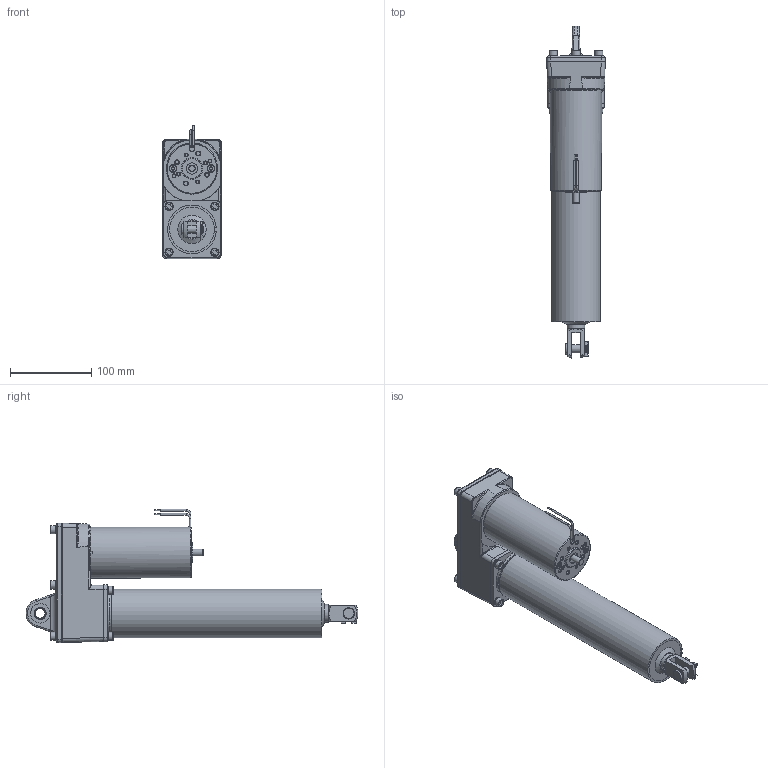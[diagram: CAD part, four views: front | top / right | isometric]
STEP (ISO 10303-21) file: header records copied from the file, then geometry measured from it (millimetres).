
FILE_DESCRIPTION(/* description */ (''),/* implementation_level */ '2;1');
FILE_NAME(/* name */ 'T6C2-DC-0200-Dunker 63x55-162-131-9',/* time_stamp */ '2017-10-12T10:48:16+02:00',/* author */ ('Christoph Hahmann'),/* organization */ ('RACO'),/* preprocessor_version */ 'ST-DEVELOPER v16.7',/* originating_system */ 'DEX',/* authorisation */ $);
FILE_SCHEMA (('AUTOMOTIVE_DESIGN {1 0 10303 214 3 1 1}'));
Length unit declared in the file: millimetre
Products named in the file (6): T6C2-DC-0200-Dunker 63x55-162-131-9; 12.00-C2_4_Auge_1; Dunker-63x55; 02.14-C2-0200; 01.15-C2-0200; 01.01-02_kpl_Gabelkopf_1
Assembly tree (5 placements, depth 2):
  T6C2-DC-0200-Dunker 63x55-162-131-9
    12.00-C2_4_Auge_1
    Dunker-63x55
    02.14-C2-0200
    01.15-C2-0200
    01.01-02_kpl_Gabelkopf_1
Bounding box: 72 x 409.11 x 164.05 mm (x, y, z)
Volume: 1685455.5 mm3; surface area: 188303.5 mm2
Topology: 6 solids, 7 shells, 631 faces, 1582 edges, 1034 vertices
Faces by surface type: plane 305, cylinder 225, cone 39, bspline 36, torus 24, sphere 2
Full cylindrical faces by diameter (mm): 1 x4, 1.5 x2, 2.1 x3, 2.2 x3, 3.7 x18, 4.66 x8, 8 x3, 8.5 x2, 9.5 x2, 10 x13, 10.05 x8, 11.4 x1, 12 x1, 14 x3, 18 x1, 21.999 x1, 22 x1, 24 x2, 25 x2, 27 x1, 34.999 x1, 55 x1, 63 x1
Entity records: 18809 total; most frequent: CARTESIAN_POINT 3922, DIRECTION 3039, ORIENTED_EDGE 2684, EDGE_CURVE 1342, AXIS2_PLACEMENT_3D 1184, VERTEX_POINT 941, EDGE_LOOP 865, FACE_BOUND 865
